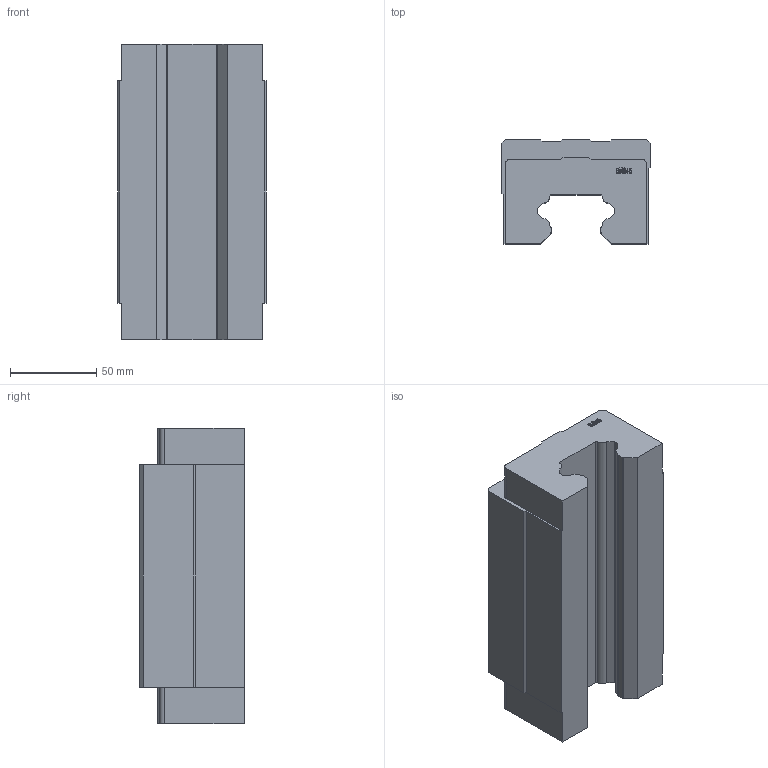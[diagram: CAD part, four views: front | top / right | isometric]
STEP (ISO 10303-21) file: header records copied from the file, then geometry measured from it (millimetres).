
FILE_DESCRIPTION (( 'STEP AP203' ), '1' );
FILE_NAME ('SMH45BL.stp', '2019-09-25T04:29:47', ( 'pgos' ), ( '' ), 'SwSTEP 2.0', 'SolidWorks 2014', '' );
FILE_SCHEMA (( 'CONFIG_CONTROL_DESIGN' ));
Length unit declared in the file: millimetre
Products named in the file (1): SMH45BL
Bounding box: 86 x 60.5 x 171.2 mm (x, y, z)
Volume: 649842.8 mm3; surface area: 70104.2 mm2
Topology: 1 solids, 1 shells, 221 faces, 627 edges, 418 vertices
Faces by surface type: plane 145, bspline 51, cylinder 25
Entity records: 9170 total; most frequent: CARTESIAN_POINT 3646, ORIENTED_EDGE 1254, DIRECTION 917, EDGE_CURVE 627, VECTOR 475, LINE 475, VERTEX_POINT 418, EDGE_LOOP 231
